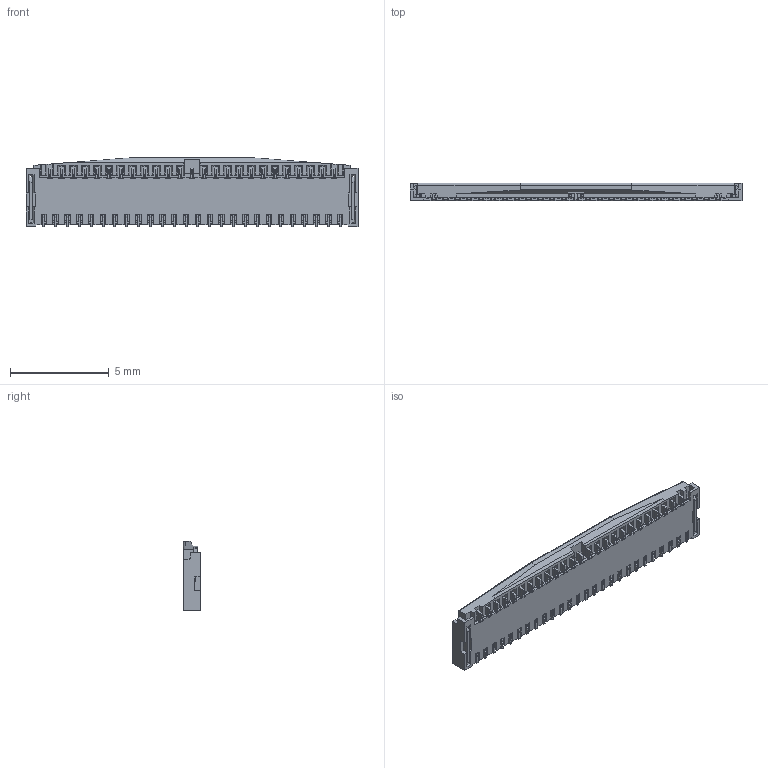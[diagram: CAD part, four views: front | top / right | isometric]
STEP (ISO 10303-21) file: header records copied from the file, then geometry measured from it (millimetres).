
FILE_DESCRIPTION (( 'STEP AP203' ), '1' );
FILE_NAME ('20605-051E-02C ACT CLOSE STEP R4 ALL.STEP', '2015-09-14T05:38:59', ( '' ), ( '' ), 'SwSTEP 2.0', 'SolidWorks 2012', '' );
FILE_SCHEMA (( 'CONFIG_CONTROL_DESIGN' ));
Length unit declared in the file: millimetre
Products named in the file (1): 20605-051E-02C ACT CLOSE STEP R4 ALL
Bounding box: 16.8 x 0.9 x 3.5 mm (x, y, z)
Volume: 39.6 mm3; surface area: 257.9 mm2
Topology: 1 solids, 1 shells, 4725 faces, 14156 edges, 9334 vertices
Faces by surface type: plane 4026, cylinder 682, bspline 15, torus 2
Entity records: 157769 total; most frequent: CARTESIAN_POINT 29433, ORIENTED_EDGE 28312, DIRECTION 24756, EDGE_CURVE 14156, VECTOR 12506, LINE 12506, VERTEX_POINT 9334, AXIS2_PLACEMENT_3D 6125
